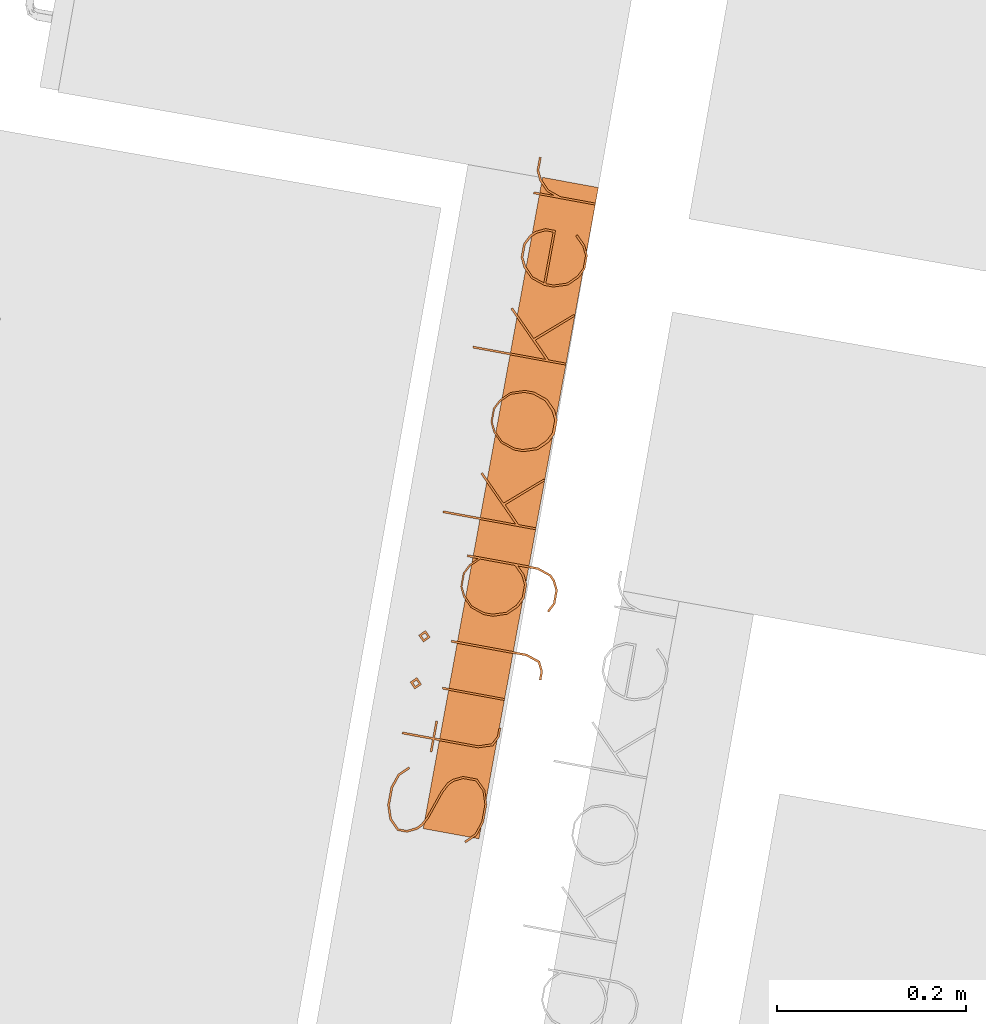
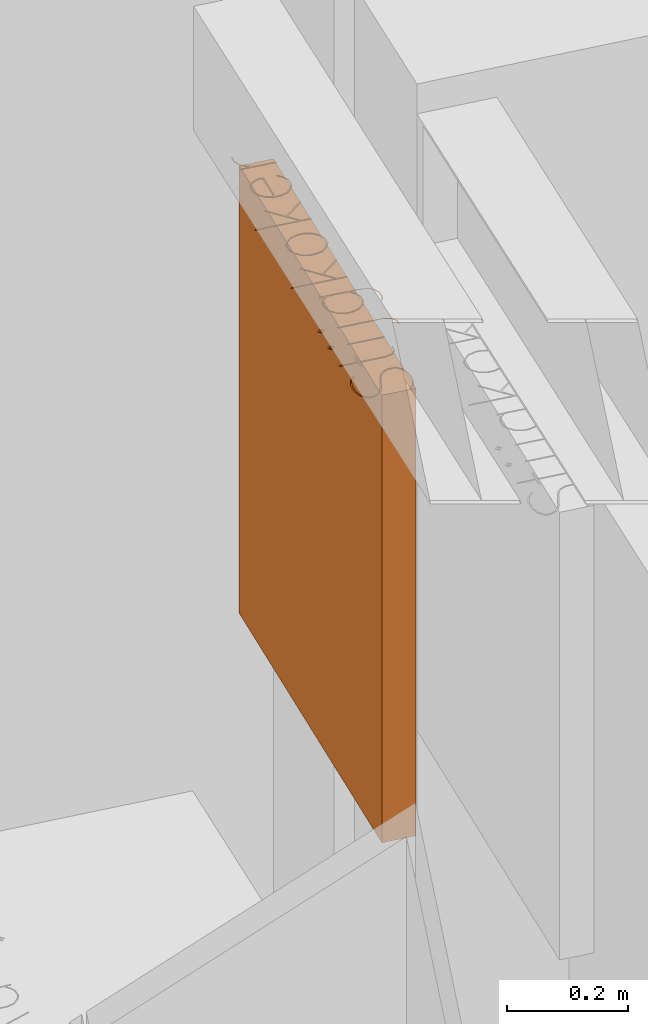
# One storey, part 31 of 43: 1 proxy.
"""IFC2X3 building model written with IfcOpenShell, lengths in metres."""

from ifc_helpers import new_model, entity, si_unit, converted_unit, derived_unit, direction, frame, origin, place, context, subcontext, project, spatial, face_set, surface_model, source, transform, mapped, material, type_object, type_shapes, element, save


model = new_model("IFC2X3")

# Units and contexts
model_context = context("Model", 3, precision=1e-05, world=origin(), true_north=direction((6.12303176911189e-17, 1.0)))
body_context = subcontext(model_context, "Body", "Model", "MODEL_VIEW")
ifc_project = project(units=[si_unit("LENGTHUNIT", "METRE"), si_unit("AREAUNIT", "SQUARE_METRE"), si_unit("VOLUMEUNIT", "CUBIC_METRE"), converted_unit("PLANEANGLEUNIT", "DEGREE", entity("IfcRatioMeasure", 0.0174532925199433), si_unit("PLANEANGLEUNIT", "RADIAN"), dimensions=[0, 0, 0, 0, 0, 0, 0]), si_unit("MASSUNIT", "GRAM", prefix="KILO"), derived_unit("MASSDENSITYUNIT", [(si_unit("MASSUNIT", "GRAM", prefix="KILO"), 1), (si_unit("LENGTHUNIT", "METRE"), -3)]), derived_unit("MOMENTOFINERTIAUNIT", [(si_unit("LENGTHUNIT", "METRE"), 4)]), si_unit("TIMEUNIT", "SECOND"), si_unit("FREQUENCYUNIT", "HERTZ"), si_unit("THERMODYNAMICTEMPERATUREUNIT", "DEGREE_CELSIUS"), derived_unit("THERMALTRANSMITTANCEUNIT", [(si_unit("MASSUNIT", "GRAM", prefix="KILO"), 1), (si_unit("THERMODYNAMICTEMPERATUREUNIT", "KELVIN"), -1), (si_unit("TIMEUNIT", "SECOND"), -3)]), derived_unit("VOLUMETRICFLOWRATEUNIT", [(si_unit("LENGTHUNIT", "METRE"), 3), (si_unit("TIMEUNIT", "SECOND"), -1)]), si_unit("ELECTRICCURRENTUNIT", "AMPERE"), si_unit("ELECTRICVOLTAGEUNIT", "VOLT"), si_unit("POWERUNIT", "WATT"), si_unit("FORCEUNIT", "NEWTON", prefix="KILO"), si_unit("ILLUMINANCEUNIT", "LUX"), si_unit("LUMINOUSFLUXUNIT", "LUMEN"), si_unit("LUMINOUSINTENSITYUNIT", "CANDELA"), derived_unit("USERDEFINED", [(si_unit("MASSUNIT", "GRAM", prefix="KILO"), -1), (si_unit("LENGTHUNIT", "METRE"), -2), (si_unit("TIMEUNIT", "SECOND"), 3), (si_unit("LUMINOUSFLUXUNIT", "LUMEN"), 1)]), derived_unit("LINEARVELOCITYUNIT", [(si_unit("LENGTHUNIT", "METRE"), 1), (si_unit("TIMEUNIT", "SECOND"), -1)]), si_unit("PRESSUREUNIT", "PASCAL"), derived_unit("USERDEFINED", [(si_unit("LENGTHUNIT", "METRE"), -2), (si_unit("MASSUNIT", "GRAM", prefix="KILO"), 1), (si_unit("TIMEUNIT", "SECOND"), -2)]), derived_unit("LINEARFORCEUNIT", [(si_unit("MASSUNIT", "GRAM", prefix="KILO"), 1), (si_unit("LENGTHUNIT", "METRE"), 1), (si_unit("TIMEUNIT", "SECOND"), -2), (si_unit("LENGTHUNIT", "METRE"), -1)]), derived_unit("PLANARFORCEUNIT", [(si_unit("MASSUNIT", "GRAM", prefix="KILO"), 1), (si_unit("LENGTHUNIT", "METRE"), 1), (si_unit("TIMEUNIT", "SECOND"), -2), (si_unit("LENGTHUNIT", "METRE"), -2)])], contexts=[model_context])

# Site, building, storey
site_placement = place(None, origin())
site = spatial("IfcSite", under=ifc_project, at=site_placement, Name="Default", CompositionType="ELEMENT")
building_placement = place(site_placement, origin())
building = spatial("IfcBuilding", under=site, at=building_placement, CompositionType="ELEMENT")
storey_placement = place(building_placement, frame((0.0, 0.0, 3.0)))
storey = spatial("IfcBuildingStorey", under=building, at=storey_placement, Name="01 OG", CompositionType="ELEMENT", Elevation=3.0)

# Proxy
ifc_material = material(Name="dh_Stellfläche")
building_element_proxy_type = type_object("IfcBuildingElementProxyType", Name="dh_Gerät_Stellfläche Bestand:Nutzergerät", PredefinedType="NOTDEFINED", material=ifc_material)
shared_shape = source(origin(), body_context, "Body", "SurfaceModel", [
    surface_model("IfcFaceBasedSurfaceModel", [(-0.355113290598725, -0.0453817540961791, 0.905000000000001), (-0.356700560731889, -0.0470458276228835, 0.905000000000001), (-0.346946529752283, -0.0567998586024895, 0.905000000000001), (-0.332277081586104, -0.0616384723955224, 0.905000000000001), (-0.312948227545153, -0.0616384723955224, 0.905000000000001), (-0.298278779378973, -0.0567998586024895, 0.905000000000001), (-0.288166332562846, -0.0466618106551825, 0.905000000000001), (-0.288166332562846, -0.0314547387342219, 0.905000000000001), (-0.29308174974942, -0.0214446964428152, 0.905000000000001), (-0.298073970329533, -0.0163500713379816, 0.905000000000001), (-0.307904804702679, -0.0115114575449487, 0.905000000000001), (-0.336450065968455, -0.00188543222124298, 0.905000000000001), (-0.34569207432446, 0.00295318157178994, 0.905000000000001), (-0.350197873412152, 0.00745898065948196, 0.905000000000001), (-0.354857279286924, 0.0166497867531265, 0.905000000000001), (-0.354857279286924, 0.0255845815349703, 0.905000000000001), (-0.34582007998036, 0.0347241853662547, 0.905000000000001), (-0.331944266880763, 0.0393579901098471, 0.905000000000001), (-0.313204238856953, 0.0393579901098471, 0.905000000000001), (-0.299328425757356, 0.0347241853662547, 0.905000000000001), (-0.290112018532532, 0.0252005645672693, 0.905000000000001), (-0.288447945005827, 0.0268646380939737, 0.905000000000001), (-0.298278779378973, 0.0366186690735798, 0.905000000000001), (-0.312948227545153, 0.041585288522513, 0.905000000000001), (-0.332277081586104, 0.041585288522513, 0.905000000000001), (-0.346946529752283, 0.0366186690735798, 0.905000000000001), (-0.35698217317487, 0.0264550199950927, 0.905000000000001), (-0.35698217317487, 0.016112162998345, 0.905000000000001), (-0.352117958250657, 0.00610212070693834, 0.905000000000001), (-0.347074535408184, 0.00100749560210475, 0.905000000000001), (-0.337243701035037, -0.00383111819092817, 0.905000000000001), (-0.308698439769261, -0.0134571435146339, 0.905000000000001), (-0.299456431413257, -0.0182957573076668, 0.905000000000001), (-0.294950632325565, -0.0228015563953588, 0.905000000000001), (-0.290368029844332, -0.0320691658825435, 0.905000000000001), (-0.290368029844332, -0.0457657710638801, 0.905000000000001), (-0.299328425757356, -0.0549053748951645, 0.905000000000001), (-0.313204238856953, -0.0595647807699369, 0.905000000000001), (-0.331944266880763, -0.0595647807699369, 0.905000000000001), (-0.34582007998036, -0.0549053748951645, 0.905000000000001), (-0.230691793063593, -0.0616384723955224, 0.905000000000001), (-0.230691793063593, -0.0595647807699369, 0.905000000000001), (-0.239908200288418, -0.0595647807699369, 0.905000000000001), (-0.248740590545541, -0.055084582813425, 0.905000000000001), (-0.253399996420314, -0.0413879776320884, 0.905000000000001), (-0.253399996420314, 0.00533408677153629, 0.905000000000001), (-0.235402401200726, 0.00533408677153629, 0.905000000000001), (-0.235402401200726, 0.00745898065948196, 0.905000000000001), (-0.253399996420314, 0.00745898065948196, 0.905000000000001), (-0.253399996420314, 0.0399468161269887, 0.905000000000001), (-0.255576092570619, 0.0399468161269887, 0.905000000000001), (-0.255576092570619, 0.00745898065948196, 0.905000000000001), (-0.268735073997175, 0.00745898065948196, 0.905000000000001), (-0.268735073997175, 0.00533408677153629, 0.905000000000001), (-0.255576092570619, 0.00533408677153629, 0.905000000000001), (-0.255576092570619, -0.0416439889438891, 0.905000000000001), (-0.250660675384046, -0.0566974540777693, 0.905000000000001), (-0.240445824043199, -0.0616384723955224, 0.905000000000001), (-0.201327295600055, -0.0599999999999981, 0.905000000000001), (-0.199202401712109, -0.0599999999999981, 0.905000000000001), (-0.199202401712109, 0.00666534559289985, 0.905000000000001), (-0.201327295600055, 0.00666534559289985, 0.905000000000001), (-0.17329405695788, -0.0922318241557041, 0.905000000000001), (-0.17329405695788, -0.0944079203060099, 0.905000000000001), (-0.163744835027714, -0.0944079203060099, 0.905000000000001), (-0.153581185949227, -0.0893644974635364, 0.905000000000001), (-0.148665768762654, -0.0744390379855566, 0.905000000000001), (-0.148665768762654, 0.00651173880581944, 0.905000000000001), (-0.15086746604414, 0.00651173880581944, 0.905000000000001), (-0.15086746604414, -0.0741574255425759, 0.905000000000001), (-0.155501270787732, -0.087700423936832, 0.905000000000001), (-0.164333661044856, -0.0922318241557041, 0.905000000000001), (-0.100049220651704, -0.0875980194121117, 0.905000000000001), (-0.101175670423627, -0.0895181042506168, 0.905000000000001), (-0.0913448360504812, -0.0944079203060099, 0.905000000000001), (-0.0765473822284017, -0.0944079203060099, 0.905000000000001), (-0.0666397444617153, -0.0895181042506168, 0.905000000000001), (-0.0615963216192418, -0.0843466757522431, 0.905000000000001), (-0.0566809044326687, -0.069728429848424, 0.905000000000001), (-0.0566809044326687, 0.00615332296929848, 0.905000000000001), (-0.0588826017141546, 0.00615332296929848, 0.905000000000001), (-0.0588826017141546, -0.00552079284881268, 0.905000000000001), (-0.0666397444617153, 0.0023387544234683, 0.905000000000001), (-0.0765473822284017, 0.00717736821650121, 0.905000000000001), (-0.0913448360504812, 0.00717736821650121, 0.905000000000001), (-0.101303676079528, 0.0023387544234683, 0.905000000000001), (-0.111057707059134, -0.00756888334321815, 0.905000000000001), (-0.115973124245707, -0.0221871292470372, 0.905000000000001), (-0.115973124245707, -0.0319923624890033, 0.905000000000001), (-0.111057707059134, -0.0465850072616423, 0.905000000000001), (-0.101303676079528, -0.0564926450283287, 0.905000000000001), (-0.0913448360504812, -0.0612544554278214, 0.905000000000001), (-0.0765473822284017, -0.0612544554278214, 0.905000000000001), (-0.0666397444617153, -0.0564926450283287, 0.905000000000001), (-0.0588826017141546, -0.0485818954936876, 0.905000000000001), (-0.0588826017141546, -0.0694724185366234, 0.905000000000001), (-0.0634652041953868, -0.0832970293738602, 0.905000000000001), (-0.0679710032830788, -0.0875980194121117, 0.905000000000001), (-0.077059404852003, -0.0922318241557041, 0.905000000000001), (-0.0908072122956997, -0.0922318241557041, 0.905000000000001), (-0.0588826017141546, -0.0452537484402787, 0.905000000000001), (-0.0679710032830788, -0.0542909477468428, 0.905000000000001), (-0.077059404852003, -0.0588735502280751, 0.905000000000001), (-0.0908072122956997, -0.0588735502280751, 0.905000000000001), (-0.0999212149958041, -0.0542909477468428, 0.905000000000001), (-0.109214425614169, -0.0451257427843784, 0.905000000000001), (-0.113797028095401, -0.0312499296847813, 0.905000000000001), (-0.113797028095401, -0.0220079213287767, 0.905000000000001), (-0.109214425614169, -0.00813210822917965, 0.905000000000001), (-0.0999212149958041, 0.000956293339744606, 0.905000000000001), (-0.0908072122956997, 0.00561569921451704, 0.905000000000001), (-0.077059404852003, 0.00561569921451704, 0.905000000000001), (-0.0679710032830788, 0.000956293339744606, 0.905000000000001), (-0.0588826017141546, -0.00800410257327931, 0.905000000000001), (-0.017818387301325, -0.0599999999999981, 0.905000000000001), (-0.0156934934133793, -0.0599999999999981, 0.905000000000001), (-0.0156934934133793, -0.0413367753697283, 0.905000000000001), (0.00230410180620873, -0.0235439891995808, 0.905000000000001), (0.0347919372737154, -0.0599999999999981, 0.905000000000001), (0.0364560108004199, -0.0587455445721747, 0.905000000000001), (0.00376336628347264, -0.0214958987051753, 0.905000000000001), (0.0316685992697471, 0.00625572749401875, 0.905000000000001), (0.0300813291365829, 0.00784299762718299, 0.905000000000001), (-0.0156934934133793, -0.0379574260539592, 0.905000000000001), (-0.0156934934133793, 0.0399468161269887, 0.905000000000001), (-0.017818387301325, 0.0399468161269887, 0.905000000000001), (0.120146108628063, -0.0469178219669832, 0.905000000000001), (0.125061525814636, -0.0322227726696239, 0.905000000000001), (0.125061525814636, -0.0223663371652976, 0.905000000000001), (0.120146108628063, -0.00767128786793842, 0.905000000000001), (0.110315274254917, 0.00231315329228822, 0.905000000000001), (0.100407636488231, 0.00717736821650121, 0.905000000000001), (0.0856101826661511, 0.00717736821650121, 0.905000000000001), (0.0756513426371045, 0.00231315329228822, 0.905000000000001), (0.0658973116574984, -0.00767128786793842, 0.905000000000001), (0.0609818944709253, -0.0223663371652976, 0.905000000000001), (0.0609818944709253, -0.0322227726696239, 0.905000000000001), (0.0658973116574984, -0.0469178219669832, 0.905000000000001), (0.0756513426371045, -0.0568510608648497, 0.905000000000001), (0.0856101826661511, -0.0616384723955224, 0.905000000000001), (0.100407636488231, -0.0616384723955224, 0.905000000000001), (0.110315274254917, -0.0568510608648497, 0.905000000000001), (0.118200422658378, -0.0451257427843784, 0.905000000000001), (0.108984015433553, -0.0542909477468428, 0.905000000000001), (0.0998956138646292, -0.0588735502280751, 0.905000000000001), (0.0861478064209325, -0.0588735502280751, 0.905000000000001), (0.0770338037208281, -0.0542909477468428, 0.905000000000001), (0.0677405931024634, -0.0451257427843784, 0.905000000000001), (0.0631579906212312, -0.0312499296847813, 0.905000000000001), (0.0631579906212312, -0.0220079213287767, 0.905000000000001), (0.0677405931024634, -0.00813210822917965, 0.905000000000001), (0.0770338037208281, 0.000956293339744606, 0.905000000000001), (0.0861478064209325, 0.00561569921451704, 0.905000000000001), (0.0998956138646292, 0.00561569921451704, 0.905000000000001), (0.108984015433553, 0.000956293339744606, 0.905000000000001), (0.118200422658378, -0.00813210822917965, 0.905000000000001), (0.12285982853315, -0.0220079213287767, 0.905000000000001), (0.12285982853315, -0.0312499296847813, 0.905000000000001), (0.159136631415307, -0.0599999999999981, 0.905000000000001), (0.161261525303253, -0.0599999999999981, 0.905000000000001), (0.161261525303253, -0.0413367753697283, 0.905000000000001), (0.179259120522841, -0.0235439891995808, 0.905000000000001), (0.211746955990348, -0.0599999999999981, 0.905000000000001), (0.213411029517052, -0.0587455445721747, 0.905000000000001), (0.180718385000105, -0.0214958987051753, 0.905000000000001), (0.208623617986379, 0.00625572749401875, 0.905000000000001), (0.207036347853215, 0.00784299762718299, 0.905000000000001), (0.161261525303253, -0.0379574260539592, 0.905000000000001), (0.161261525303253, 0.0399468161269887, 0.905000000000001), (0.159136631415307, 0.0399468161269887, 0.905000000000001), (0.296973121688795, -0.0471994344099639, 0.905000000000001), (0.295309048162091, -0.0455353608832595, 0.905000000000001), (0.285939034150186, -0.0549821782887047, 0.905000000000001), (0.276850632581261, -0.0595647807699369, 0.905000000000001), (0.263102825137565, -0.0595647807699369, 0.905000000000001), (0.253988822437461, -0.0549821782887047, 0.905000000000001), (0.244695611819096, -0.0457913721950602, 0.905000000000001), (0.240113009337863, -0.0318899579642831, 0.905000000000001), (0.240113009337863, -0.0236463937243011, 0.905000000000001), (0.297229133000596, -0.0236463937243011, 0.905000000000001), (0.297229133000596, -0.0127147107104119, 0.905000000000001), (0.292313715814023, -0.00273026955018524, 0.905000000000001), (0.287270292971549, 0.00231315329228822, 0.905000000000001), (0.277362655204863, 0.00717736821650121, 0.905000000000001), (0.262565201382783, 0.00717736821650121, 0.905000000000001), (0.252606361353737, 0.00231315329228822, 0.905000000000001), (0.242852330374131, -0.00767128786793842, 0.905000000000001), (0.237936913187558, -0.0223663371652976, 0.905000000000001), (0.237936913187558, -0.0322227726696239, 0.905000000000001), (0.242852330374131, -0.0469178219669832, 0.905000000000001), (0.252606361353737, -0.0568510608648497, 0.905000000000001), (0.262565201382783, -0.0616384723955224, 0.905000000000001), (0.277362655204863, -0.0616384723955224, 0.905000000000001), (0.287270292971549, -0.0568510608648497, 0.905000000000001), (0.240522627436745, -0.0214446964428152, 0.905000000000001), (0.244695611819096, -0.00874653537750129, 0.905000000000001), (0.253988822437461, 0.000341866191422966, 0.905000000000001), (0.263102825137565, 0.0050012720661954, 0.905000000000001), (0.276850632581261, 0.0050012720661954, 0.905000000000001), (0.285939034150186, 0.000341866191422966, 0.905000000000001), (0.290444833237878, -0.00416393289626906, 0.905000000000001), (0.29502743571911, -0.0132779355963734, 0.905000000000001), (0.29502743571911, -0.0214446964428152, 0.905000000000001), (0.331176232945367, -0.0599999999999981, 0.905000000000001), (0.333301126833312, -0.0599999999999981, 0.905000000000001), (0.333301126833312, -0.0223407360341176, 0.905000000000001), (0.337960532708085, -0.00856732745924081, 0.905000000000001), (0.347202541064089, 0.000469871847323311, 0.905000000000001), (0.356342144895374, 0.00507807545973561, 0.905000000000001), (0.370371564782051, 0.00507807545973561, 0.905000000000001), (0.370371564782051, 0.00717736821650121, 0.905000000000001), (0.355753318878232, 0.00717736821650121, 0.905000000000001), (0.345871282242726, 0.00236435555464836, 0.905000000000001), (0.336040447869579, -0.00751768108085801, 0.905000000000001), (0.333301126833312, -0.0156076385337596, 0.905000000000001), (0.333301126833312, 0.00630692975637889, 0.905000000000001), (0.331176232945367, 0.00630692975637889, 0.905000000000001), (-0.149792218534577, 0.0291175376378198, 0.905000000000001), (-0.14349434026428, 0.0353386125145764, 0.905000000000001), (-0.149792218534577, 0.041585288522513, 0.905000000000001), (-0.156038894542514, 0.0353386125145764, 0.905000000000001), (-0.149792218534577, 0.0319592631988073, 0.905000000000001), (-0.153043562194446, 0.035210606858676, 0.905000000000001), (-0.149792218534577, 0.0384875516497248, 0.905000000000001), (-0.146464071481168, 0.035210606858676, 0.905000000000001), (-0.200252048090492, 0.0291175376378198, 0.905000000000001), (-0.194005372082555, 0.0353386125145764, 0.905000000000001), (-0.200252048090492, 0.041585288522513, 0.905000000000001), (-0.206498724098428, 0.0353386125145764, 0.905000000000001), (-0.200252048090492, 0.0319592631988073, 0.905000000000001), (-0.20350339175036, 0.035210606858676, 0.905000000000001), (-0.200252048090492, 0.0384875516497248, 0.905000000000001), (-0.197000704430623, 0.035210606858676, 0.905000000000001), (0.35, 0.0, 0.9), (0.35, -0.06, 0.9), (-0.35, -0.06, 0.9), (-0.35, 0.0, 0.9), (0.35, 0.0, 0.0), (0.35, -0.06, 0.0), (-0.35, -0.06, 0.0), (-0.35, 0.0, 0.0)], [face_set([[[0, 1, 2, 3, 4, 5, 6, 7, 8, 9, 10, 11, 12, 13, 14, 15, 16, 17, 18, 19, 20, 21, 22, 23, 24, 25, 26, 27, 28, 29, 30, 31, 32, 33, 34, 35, 36, 37, 38, 39]]]), face_set([[[40, 41, 42, 43, 44, 45, 46, 47, 48, 49, 50, 51, 52, 53, 54, 55, 56, 57]]]), face_set([[[58, 59, 60, 61]]]), face_set([[[62, 63, 64, 65, 66, 67, 68, 69, 70, 71]]]), face_set([[[72, 73, 74, 75, 76, 77, 78, 79, 80, 81, 82, 83, 84, 85, 86, 87, 88, 89, 90, 91, 92, 93, 94, 95, 96, 97, 98, 99], [100, 101, 102, 103, 104, 105, 106, 107, 108, 109, 110, 111, 112, 113]]]), face_set([[[114, 115, 116, 117, 118, 119, 120, 121, 122, 123, 124, 125]]]), face_set([[[126, 127, 128, 129, 130, 131, 132, 133, 134, 135, 136, 137, 138, 139, 140, 141], [142, 143, 144, 145, 146, 147, 148, 149, 150, 151, 152, 153, 154, 155, 156, 157]]]), face_set([[[158, 159, 160, 161, 162, 163, 164, 165, 166, 167, 168, 169]]]), face_set([[[170, 171, 172, 173, 174, 175, 176, 177, 178, 179, 180, 181, 182, 183, 184, 185, 186, 187, 188, 189, 190, 191, 192, 193], [194, 195, 196, 197, 198, 199, 200, 201, 202]]]), face_set([[[203, 204, 205, 206, 207, 208, 209, 210, 211, 212, 213, 214, 215, 216]]]), face_set([[[217, 218, 219, 220], [221, 222, 223, 224]]]), face_set([[[225, 226, 227, 228], [229, 230, 231, 232]]]), face_set([[[233, 234, 235, 236]], [[237, 238, 239, 240]], [[236, 233, 237, 240]], [[235, 236, 240, 239]], [[234, 238, 239, 235]], [[233, 234, 238, 237]]])]),
])
type_shapes(building_element_proxy_type, [shared_shape])
proxy_placement = place(storey_placement, frame((26.2492759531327, 11.5303053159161, 1.2), z_axis=(0.0, 0.0, 1.0), x_axis=(0.180288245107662, 0.983613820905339, 0.0)))
element("IfcBuildingElementProxy", 1, at=proxy_placement, inside=storey, type_object=building_element_proxy_type, material=ifc_material, Name="dh_Gerät_Stellfläche Bestand:Nutzergerät", ObjectType="dh_Gerät_Stellfläche Bestand:Nutzergerät", context=body_context, shape_type="MappedRepresentation", body=[
    mapped(shared_shape, transform((0.0, 0.0, 0.0), scale=1.0)),
])

save(model, "model.ifc")
